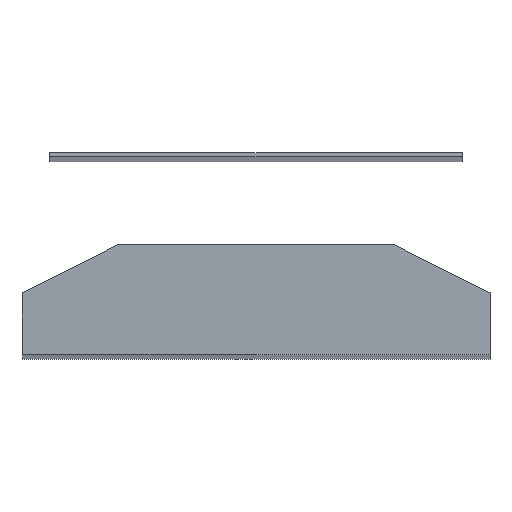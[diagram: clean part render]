
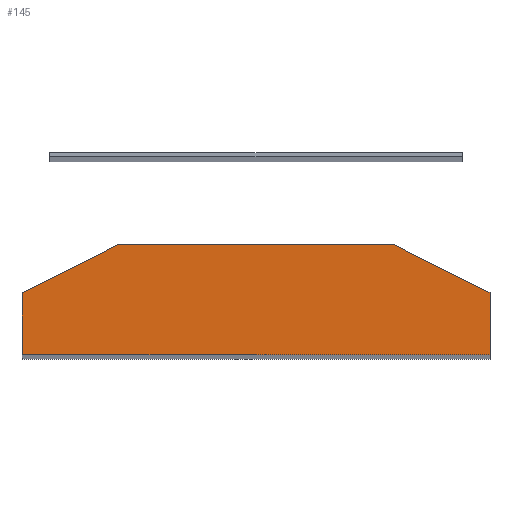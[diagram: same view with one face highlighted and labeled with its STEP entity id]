
A CAD part, top view. The second image highlights one B-rep face of the part: STEP entity #145.
In plain terms, the highlighted planar face has unit normal (0, 0, 1).
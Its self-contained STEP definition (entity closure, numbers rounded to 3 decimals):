
#7 = DIRECTION ( 'NONE',  ( -0.894, -0.447, 0. ) ) ;
#9 = CARTESIAN_POINT ( 'NONE',  ( -200., 160., 2000. ) ) ;
#19 = DIRECTION ( 'NONE',  ( 0., 0., -1. ) ) ;
#47 = ORIENTED_EDGE ( 'NONE', *, *, #392, .T. ) ;
#55 = VERTEX_POINT ( 'NONE', #94 ) ;
#58 = ORIENTED_EDGE ( 'NONE', *, *, #334, .T. ) ;
#65 = CARTESIAN_POINT ( 'NONE',  ( 0., 0., 2000. ) ) ;
#70 = PLANE ( 'NONE',  #351 ) ;
#85 = CARTESIAN_POINT ( 'NONE',  ( 340., 90., 2000. ) ) ;
#94 = CARTESIAN_POINT ( 'NONE',  ( -340., 0., 2000. ) ) ;
#136 = CARTESIAN_POINT ( 'NONE',  ( -340., 90., 2000. ) ) ;
#145 = ADVANCED_FACE ( 'NONE', ( #241 ), #70, .F. ) ;
#153 = DIRECTION ( 'NONE',  ( 0., 1., 0. ) ) ;
#158 = CARTESIAN_POINT ( 'NONE',  ( -340., 0., 2000. ) ) ;
#163 = DIRECTION ( 'NONE',  ( 1., 0., 0. ) ) ;
#172 = VECTOR ( 'NONE', #153, 1000. ) ;
#175 = LINE ( 'NONE', #85, #172 ) ;
#179 = LINE ( 'NONE', #158, #180 ) ;
#180 = VECTOR ( 'NONE', #163, 1000. ) ;
#189 = VECTOR ( 'NONE', #249, 1000. ) ;
#196 = CARTESIAN_POINT ( 'NONE',  ( 200., 160., 2000. ) ) ;
#197 = LINE ( 'NONE', #215, #189 ) ;
#214 = VECTOR ( 'NONE', #252, 1000. ) ;
#215 = CARTESIAN_POINT ( 'NONE',  ( -340., 0., 2000. ) ) ;
#220 = LINE ( 'NONE', #274, #221 ) ;
#221 = VECTOR ( 'NONE', #329, 1000. ) ;
#223 = LINE ( 'NONE', #253, #214 ) ;
#224 = VECTOR ( 'NONE', #7, 1000. ) ;
#229 = LINE ( 'NONE', #136, #224 ) ;
#241 = FACE_OUTER_BOUND ( 'NONE', #269, .T. ) ;
#246 = VERTEX_POINT ( 'NONE', #9 ) ;
#249 = DIRECTION ( 'NONE',  ( 0., -1., 0. ) ) ;
#252 = DIRECTION ( 'NONE',  ( -0.894, 0.447, 0. ) ) ;
#253 = CARTESIAN_POINT ( 'NONE',  ( 200., 160., 2000. ) ) ;
#259 = VERTEX_POINT ( 'NONE', #196 ) ;
#260 = CARTESIAN_POINT ( 'NONE',  ( 340., 0., 2000. ) ) ;
#264 = VERTEX_POINT ( 'NONE', #364 ) ;
#265 = VERTEX_POINT ( 'NONE', #381 ) ;
#269 = EDGE_LOOP ( 'NONE', ( #360, #47, #348, #366, #58, #419 ) ) ;
#274 = CARTESIAN_POINT ( 'NONE',  ( -200., 160., 2000. ) ) ;
#296 = EDGE_CURVE ( 'NONE', #246, #264, #229, .T. ) ;
#329 = DIRECTION ( 'NONE',  ( -1., 0., 0. ) ) ;
#334 = EDGE_CURVE ( 'NONE', #259, #246, #220, .T. ) ;
#335 = EDGE_CURVE ( 'NONE', #265, #259, #223, .T. ) ;
#348 = ORIENTED_EDGE ( 'NONE', *, *, #418, .T. ) ;
#351 = AXIS2_PLACEMENT_3D ( 'NONE', #65, #19, #440 ) ;
#357 = VERTEX_POINT ( 'NONE', #260 ) ;
#360 = ORIENTED_EDGE ( 'NONE', *, *, #378, .T. ) ;
#364 = CARTESIAN_POINT ( 'NONE',  ( -340., 90., 2000. ) ) ;
#366 = ORIENTED_EDGE ( 'NONE', *, *, #335, .T. ) ;
#378 = EDGE_CURVE ( 'NONE', #264, #55, #197, .T. ) ;
#381 = CARTESIAN_POINT ( 'NONE',  ( 340., 90., 2000. ) ) ;
#392 = EDGE_CURVE ( 'NONE', #55, #357, #179, .T. ) ;
#418 = EDGE_CURVE ( 'NONE', #357, #265, #175, .T. ) ;
#419 = ORIENTED_EDGE ( 'NONE', *, *, #296, .T. ) ;
#440 = DIRECTION ( 'NONE',  ( -1., 0., 0. ) ) ;
